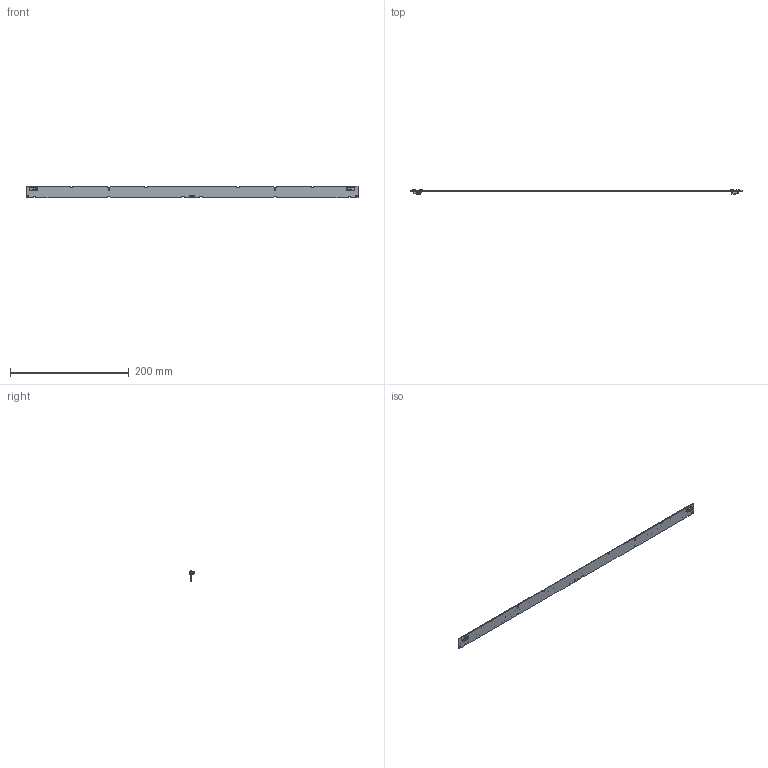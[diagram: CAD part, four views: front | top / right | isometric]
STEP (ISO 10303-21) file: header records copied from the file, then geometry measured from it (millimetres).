
FILE_DESCRIPTION (( 'STEP AP214' ), '1' );
FILE_NAME ('WU-M-578-BC-Hole.STEP', '2017-09-12T13:42:22', ( 'Admin' ), ( 'Microsoft' ), 'SwSTEP 2.0', 'SolidWorks 2017', '' );
FILE_SCHEMA (( 'AUTOMOTIVE_DESIGN' ));
Length unit declared in the file: millimetre
Products named in the file (61): STW8C2PB-E1; 46_111_1001; WU-M-578-Hole PCB; WU-M-578-BC-Hole; CE-Zeichen-3mm; Built-In LED Module-4mm; VSO-Logo-3mm
Assembly tree (54 placements, depth 2):
  STW8C2PB-E1
  46_111_1001
  STW8C2PB-E1
  STW8C2PB-E1
  46_111_1001
Bounding box: 559 x 7.43 x 20 mm (x, y, z)
Volume: 18017.1 mm3; surface area: 26348 mm2
Topology: 60 solids, 60 shells, 6231 faces, 16287 edges, 10850 vertices
Faces by surface type: plane 4499, cylinder 1011, bspline 721
Entity records: 137797 total; most frequent: CARTESIAN_POINT 47762, ORIENTED_EDGE 14868, DIRECTION 9787, EDGE_CURVE 7434, VECTOR 5133, LINE 5133, VERTEX_POINT 4952, EDGE_LOOP 3000
